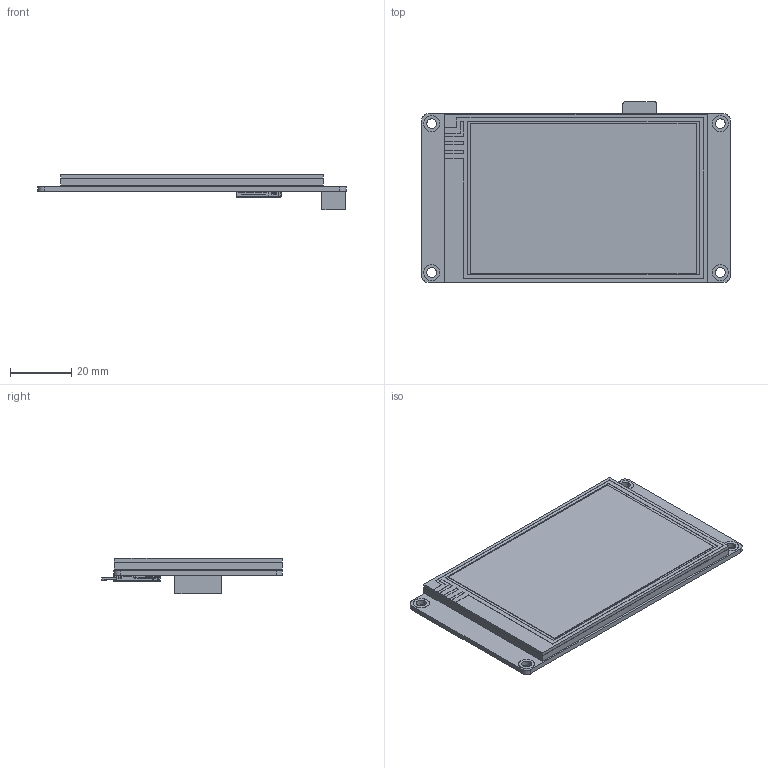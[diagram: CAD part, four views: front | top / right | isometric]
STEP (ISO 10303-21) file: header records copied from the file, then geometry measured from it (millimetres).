
FILE_DESCRIPTION (( 'STEP AP214' ), '1' );
FILE_NAME ('nx4832k035_with_microsd.STEP', '2024-08-09T18:25:47', ( '' ), ( '' ), 'SwSTEP 2.0', 'SolidWorks 2023', '' );
FILE_SCHEMA (( 'AUTOMOTIVE_DESIGN' ));
Length unit declared in the file: millimetre
Products named in the file (4): Micro_SD_Card_Standard; microsd; nx4832k035_with_microsd; Nextion 3.5_Standard
Assembly tree (3 placements, depth 2):
  nx4832k035_with_microsd
    Nextion 3.5_Standard
    microsd
    Micro_SD_Card_Standard
Bounding box: 100.5 x 58.94 x 11.65 mm (x, y, z)
Volume: 27412.3 mm3; surface area: 21036 mm2
Topology: 2 solids, 918 shells, 1388 faces, 6374 edges, 5944 vertices
Faces by surface type: plane 987, cylinder 331, bspline 63, cone 7
Entity records: 79889 total; most frequent: CARTESIAN_POINT 22826, DIRECTION 9091, ORIENTED_EDGE 7644, EDGE_CURVE 6374, VERTEX_POINT 5944, VECTOR 4883, LINE 4883, AXIS2_PLACEMENT_3D 2104
